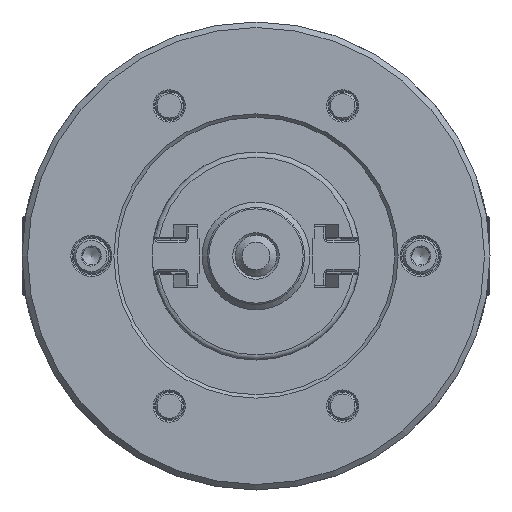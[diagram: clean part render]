
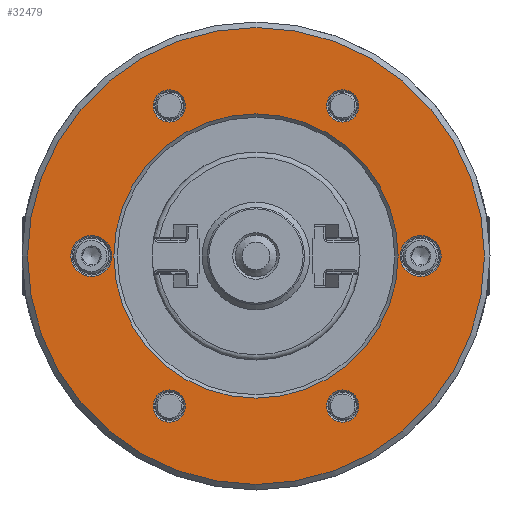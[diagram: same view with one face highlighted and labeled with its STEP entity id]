
A CAD part, left-side view. The second image highlights one B-rep face of the part: STEP entity #32479.
In plain terms, the highlighted planar face has unit normal (-1, 0, 0).
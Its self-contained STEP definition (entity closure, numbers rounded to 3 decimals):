
#1484 = DIRECTION ( 'NONE',  ( 0., 0., 1. ) ) ;
#2126 = CARTESIAN_POINT ( 'NONE',  ( -55., 0., 0. ) ) ;
#2799 = CARTESIAN_POINT ( 'NONE',  ( -55., -25., 43.301 ) ) ;
#2987 = ORIENTED_EDGE ( 'NONE', *, *, #17304, .F. ) ;
#3490 = CARTESIAN_POINT ( 'NONE',  ( -55., 25., 43.301 ) ) ;
#3586 = DIRECTION ( 'NONE',  ( 1., 0., 0. ) ) ;
#4295 = CARTESIAN_POINT ( 'NONE',  ( -55., -47.5, 5.9 ) ) ;
#4810 = FACE_BOUND ( 'NONE', #40155, .T. ) ;
#5352 = CIRCLE ( 'NONE', #25621, 4.65 ) ;
#5743 = DIRECTION ( 'NONE',  ( 0., 0., -1. ) ) ;
#7995 = AXIS2_PLACEMENT_3D ( 'NONE', #2126, #70511, #64915 ) ;
#10800 = AXIS2_PLACEMENT_3D ( 'NONE', #52662, #13785, #1484 ) ;
#13545 = CARTESIAN_POINT ( 'NONE',  ( -55., 47.5, 0. ) ) ;
#13785 = DIRECTION ( 'NONE',  ( -1., 0., 0. ) ) ;
#14440 = CIRCLE ( 'NONE', #47853, 4.65 ) ;
#14755 = ORIENTED_EDGE ( 'NONE', *, *, #54436, .F. ) ;
#16734 = FACE_BOUND ( 'NONE', #20208, .T. ) ;
#16929 = DIRECTION ( 'NONE',  ( 1., 0., 0. ) ) ;
#16982 = VERTEX_POINT ( 'NONE', #4295 ) ;
#17121 = FACE_BOUND ( 'NONE', #18792, .T. ) ;
#17304 = EDGE_CURVE ( 'NONE', #17429, #17429, #57017, .T. ) ;
#17429 = VERTEX_POINT ( 'NONE', #62660 ) ;
#18792 = EDGE_LOOP ( 'NONE', ( #2987 ) ) ;
#19276 = CARTESIAN_POINT ( 'NONE',  ( -55., 0., -41. ) ) ;
#20208 = EDGE_LOOP ( 'NONE', ( #46113 ) ) ;
#20614 = DIRECTION ( 'NONE',  ( -1., 0., 0. ) ) ;
#21101 = CARTESIAN_POINT ( 'NONE',  ( -55., 25., 38.651 ) ) ;
#21467 = VERTEX_POINT ( 'NONE', #67072 ) ;
#21508 = DIRECTION ( 'NONE',  ( 0., 0., -1. ) ) ;
#22014 = DIRECTION ( 'NONE',  ( 1., 0., 0. ) ) ;
#22060 = ORIENTED_EDGE ( 'NONE', *, *, #36537, .T. ) ;
#22368 = PLANE ( 'NONE',  #34704 ) ;
#24931 = ORIENTED_EDGE ( 'NONE', *, *, #42738, .F. ) ;
#25621 = AXIS2_PLACEMENT_3D ( 'NONE', #56573, #16929, #5743 ) ;
#26364 = VERTEX_POINT ( 'NONE', #70838 ) ;
#29670 = AXIS2_PLACEMENT_3D ( 'NONE', #3490, #49457, #71137 ) ;
#31334 = EDGE_CURVE ( 'NONE', #52178, #52178, #51220, .T. ) ;
#32479 = ADVANCED_FACE ( 'NONE', ( #67954, #38852, #16734, #17121, #56390, #67229, #61599, #4810 ), #22368, .F. ) ;
#32675 = CIRCLE ( 'NONE', #42230, 41. ) ;
#32696 = EDGE_LOOP ( 'NONE', ( #64662 ) ) ;
#33190 = EDGE_LOOP ( 'NONE', ( #61474 ) ) ;
#33367 = AXIS2_PLACEMENT_3D ( 'NONE', #49916, #3586, #21508 ) ;
#34704 = AXIS2_PLACEMENT_3D ( 'NONE', #73204, #22014, #39960 ) ;
#36137 = CARTESIAN_POINT ( 'NONE',  ( -55., 25., -47.951 ) ) ;
#36255 = ORIENTED_EDGE ( 'NONE', *, *, #50197, .T. ) ;
#36537 = EDGE_CURVE ( 'NONE', #64484, #64484, #32675, .T. ) ;
#37559 = DIRECTION ( 'NONE',  ( 0., 0., -1. ) ) ;
#37987 = CIRCLE ( 'NONE', #29670, 4.65 ) ;
#38852 = FACE_BOUND ( 'NONE', #33190, .T. ) ;
#38957 = DIRECTION ( 'NONE',  ( 1., 0., 0. ) ) ;
#39960 = DIRECTION ( 'NONE',  ( 0., 0., -1. ) ) ;
#40155 = EDGE_LOOP ( 'NONE', ( #22060 ) ) ;
#40230 = CIRCLE ( 'NONE', #7995, 65.9 ) ;
#42230 = AXIS2_PLACEMENT_3D ( 'NONE', #73684, #51985, #69164 ) ;
#42688 = AXIS2_PLACEMENT_3D ( 'NONE', #13545, #20614, #54616 ) ;
#42738 = EDGE_CURVE ( 'NONE', #60706, #60706, #40230, .T. ) ;
#44693 = EDGE_CURVE ( 'NONE', #71941, #71941, #37987, .T. ) ;
#46113 = ORIENTED_EDGE ( 'NONE', *, *, #44693, .T. ) ;
#46147 = EDGE_LOOP ( 'NONE', ( #14755 ) ) ;
#47853 = AXIS2_PLACEMENT_3D ( 'NONE', #2799, #38957, #37559 ) ;
#49457 = DIRECTION ( 'NONE',  ( 1., 0., 0. ) ) ;
#49916 = CARTESIAN_POINT ( 'NONE',  ( -55., 25., -43.301 ) ) ;
#49971 = EDGE_LOOP ( 'NONE', ( #24931 ) ) ;
#50197 = EDGE_CURVE ( 'NONE', #26364, #26364, #14440, .T. ) ;
#51220 = CIRCLE ( 'NONE', #33367, 4.65 ) ;
#51985 = DIRECTION ( 'NONE',  ( 1., 0., 0. ) ) ;
#52178 = VERTEX_POINT ( 'NONE', #36137 ) ;
#52662 = CARTESIAN_POINT ( 'NONE',  ( -55., -47.5, 0. ) ) ;
#53641 = CARTESIAN_POINT ( 'NONE',  ( -55., 0., -65.9 ) ) ;
#54436 = EDGE_CURVE ( 'NONE', #16982, #16982, #59703, .T. ) ;
#54616 = DIRECTION ( 'NONE',  ( 0., 0., 1. ) ) ;
#56390 = FACE_BOUND ( 'NONE', #32696, .T. ) ;
#56573 = CARTESIAN_POINT ( 'NONE',  ( -55., -25., -43.301 ) ) ;
#57017 = CIRCLE ( 'NONE', #42688, 5.9 ) ;
#59703 = CIRCLE ( 'NONE', #10800, 5.9 ) ;
#60706 = VERTEX_POINT ( 'NONE', #53641 ) ;
#61474 = ORIENTED_EDGE ( 'NONE', *, *, #31334, .T. ) ;
#61599 = FACE_OUTER_BOUND ( 'NONE', #49971, .T. ) ;
#62558 = EDGE_CURVE ( 'NONE', #21467, #21467, #5352, .T. ) ;
#62660 = CARTESIAN_POINT ( 'NONE',  ( -55., 47.5, 5.9 ) ) ;
#64412 = EDGE_LOOP ( 'NONE', ( #36255 ) ) ;
#64484 = VERTEX_POINT ( 'NONE', #19276 ) ;
#64662 = ORIENTED_EDGE ( 'NONE', *, *, #62558, .T. ) ;
#64915 = DIRECTION ( 'NONE',  ( 0., 0., -1. ) ) ;
#67072 = CARTESIAN_POINT ( 'NONE',  ( -55., -25., -47.951 ) ) ;
#67229 = FACE_BOUND ( 'NONE', #64412, .T. ) ;
#67954 = FACE_BOUND ( 'NONE', #46147, .T. ) ;
#69164 = DIRECTION ( 'NONE',  ( 0., 0., -1. ) ) ;
#70511 = DIRECTION ( 'NONE',  ( 1., 0., 0. ) ) ;
#70838 = CARTESIAN_POINT ( 'NONE',  ( -55., -25., 38.651 ) ) ;
#71137 = DIRECTION ( 'NONE',  ( 0., 0., -1. ) ) ;
#71941 = VERTEX_POINT ( 'NONE', #21101 ) ;
#73204 = CARTESIAN_POINT ( 'NONE',  ( -55., -65.9, 0. ) ) ;
#73684 = CARTESIAN_POINT ( 'NONE',  ( -55., 0., 0. ) ) ;
